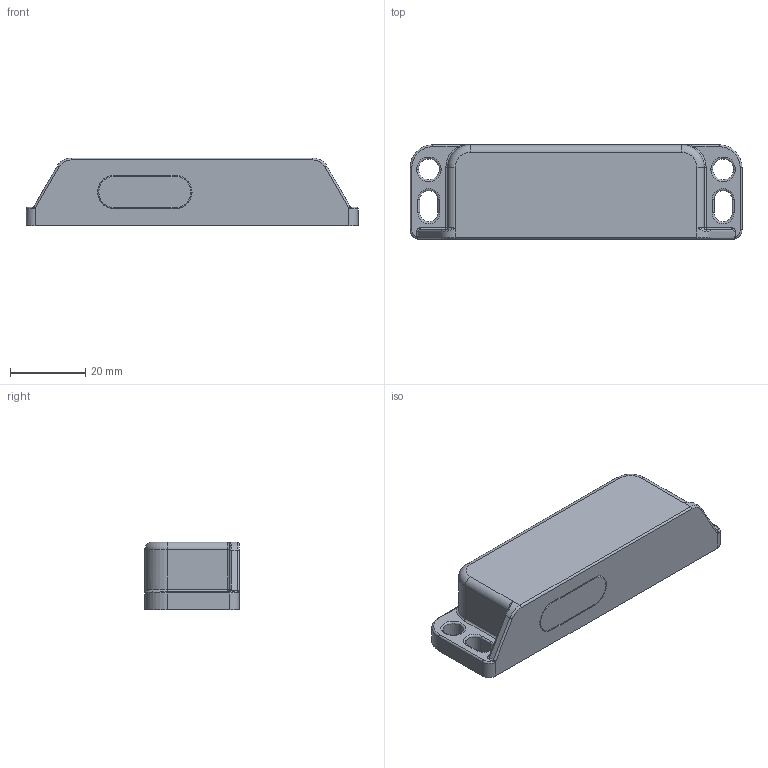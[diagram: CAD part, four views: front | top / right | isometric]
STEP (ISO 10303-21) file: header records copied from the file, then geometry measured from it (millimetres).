
FILE_DESCRIPTION (( 'STEP AP203' ), '1' );
FILE_NAME ('412-LMZ Actuator (STEP Format).STEP', '2019-04-17T11:34:53', ( '' ), ( '' ), 'SwSTEP 2.0', 'SolidWorks 2018', '' );
FILE_SCHEMA (( 'CONFIG_CONTROL_DESIGN' ));
Length unit declared in the file: millimetre
Products named in the file (1): 412-LMZ Actuator (STEP Format)
Bounding box: 88 x 25 x 18 mm (x, y, z)
Volume: 14727.8 mm3; surface area: 15136.7 mm2
Topology: 5 solids, 5 shells, 673 faces, 1661 edges, 1033 vertices
Faces by surface type: plane 286, cylinder 168, bspline 137, torus 56, cone 16, sphere 10
Entity records: 27415 total; most frequent: CARTESIAN_POINT 12231, ORIENTED_EDGE 3278, DIRECTION 2836, EDGE_CURVE 1639, VERTEX_POINT 1033, AXIS2_PLACEMENT_3D 950, LINE 936, VECTOR 936
